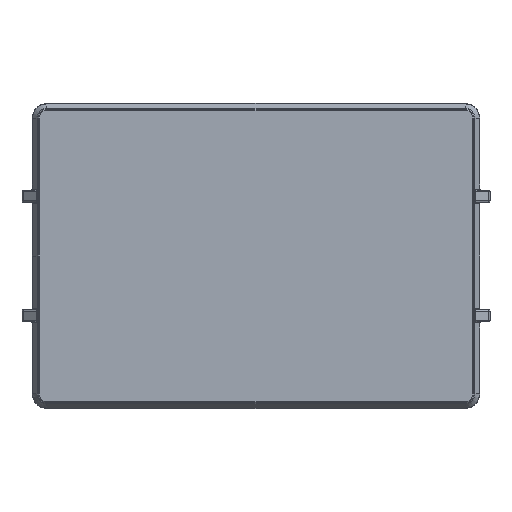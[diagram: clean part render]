
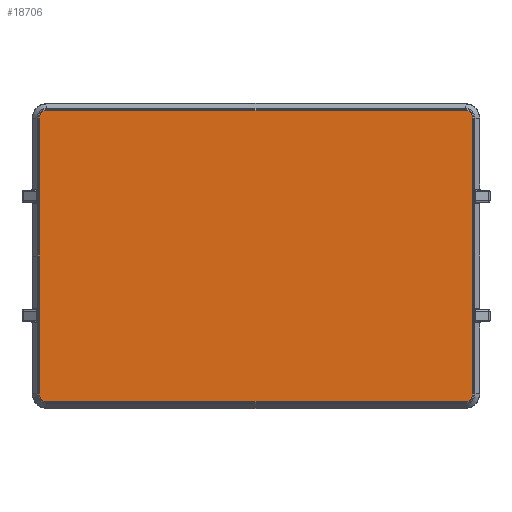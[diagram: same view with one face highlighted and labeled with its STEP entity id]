
A CAD part, front view. The second image highlights one B-rep face of the part: STEP entity #18706.
In plain terms, the highlighted planar face has unit normal (0, -1, 0).
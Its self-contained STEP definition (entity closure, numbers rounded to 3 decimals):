
#21 = VERTEX_POINT ( 'NONE', #11395 ) ;
#103 = LINE ( 'NONE', #19683, #10274 ) ;
#633 = CARTESIAN_POINT ( 'NONE',  ( -88., -39., -61.334 ) ) ;
#657 = AXIS2_PLACEMENT_3D ( 'NONE', #17870, #3749, #17539 ) ;
#1175 = FACE_OUTER_BOUND ( 'NONE', #3367, .T. ) ;
#1236 = DIRECTION ( 'NONE',  ( 0., 0., 1. ) ) ;
#1334 = CARTESIAN_POINT ( 'NONE',  ( -88., -39., 61.334 ) ) ;
#1744 = DIRECTION ( 'NONE',  ( 1., 0., 0. ) ) ;
#1837 = CARTESIAN_POINT ( 'NONE',  ( 88., -39., -61.334 ) ) ;
#2664 = LINE ( 'NONE', #9656, #7233 ) ;
#3184 = CARTESIAN_POINT ( 'NONE',  ( -91.334, -39., 0. ) ) ;
#3300 = ORIENTED_EDGE ( 'NONE', *, *, #15405, .T. ) ;
#3346 = ORIENTED_EDGE ( 'NONE', *, *, #9237, .T. ) ;
#3367 = EDGE_LOOP ( 'NONE', ( #3346, #22246, #15700, #3300, #14067, #6966, #4018, #3939, #17238 ) ) ;
#3610 = VECTOR ( 'NONE', #10825, 1000. ) ;
#3661 = DIRECTION ( 'NONE',  ( 0., -1., 0. ) ) ;
#3749 = DIRECTION ( 'NONE',  ( 0., -1., 0. ) ) ;
#3880 = DIRECTION ( 'NONE',  ( 0., 0., -1. ) ) ;
#3939 = ORIENTED_EDGE ( 'NONE', *, *, #12625, .T. ) ;
#4018 = ORIENTED_EDGE ( 'NONE', *, *, #15265, .T. ) ;
#4637 = EDGE_CURVE ( 'NONE', #15185, #21633, #8171, .T. ) ;
#4782 = AXIS2_PLACEMENT_3D ( 'NONE', #21107, #3661, #3880 ) ;
#5480 = VECTOR ( 'NONE', #18824, 1000. ) ;
#6834 = DIRECTION ( 'NONE',  ( 0., -1., 0. ) ) ;
#6888 = CARTESIAN_POINT ( 'NONE',  ( 88., -39., 61.334 ) ) ;
#6952 = CARTESIAN_POINT ( 'NONE',  ( 88., -39., 58. ) ) ;
#6966 = ORIENTED_EDGE ( 'NONE', *, *, #13667, .T. ) ;
#7030 = CARTESIAN_POINT ( 'NONE',  ( 91.334, -39., 58. ) ) ;
#7233 = VECTOR ( 'NONE', #1236, 1000. ) ;
#7443 = VERTEX_POINT ( 'NONE', #1334 ) ;
#7916 = EDGE_CURVE ( 'NONE', #10935, #16175, #18075, .T. ) ;
#8171 = LINE ( 'NONE', #20572, #10764 ) ;
#8229 = PLANE ( 'NONE',  #14205 ) ;
#8852 = CARTESIAN_POINT ( 'NONE',  ( -91.334, -39., 58. ) ) ;
#8871 = EDGE_CURVE ( 'NONE', #21, #15185, #12456, .T. ) ;
#9237 = EDGE_CURVE ( 'NONE', #16175, #21, #103, .T. ) ;
#9656 = CARTESIAN_POINT ( 'NONE',  ( 91.334, -39., -58. ) ) ;
#10111 = DIRECTION ( 'NONE',  ( 0., -1., 0. ) ) ;
#10175 = DIRECTION ( 'NONE',  ( 0., 0., 1. ) ) ;
#10214 = VERTEX_POINT ( 'NONE', #12038 ) ;
#10274 = VECTOR ( 'NONE', #12455, 1000. ) ;
#10764 = VECTOR ( 'NONE', #11734, 1000. ) ;
#10825 = DIRECTION ( 'NONE',  ( 0., 0., -1. ) ) ;
#10935 = VERTEX_POINT ( 'NONE', #8852 ) ;
#11337 = CARTESIAN_POINT ( 'NONE',  ( 88., -39., 61.334 ) ) ;
#11395 = CARTESIAN_POINT ( 'NONE',  ( -91.334, -39., -58. ) ) ;
#11734 = DIRECTION ( 'NONE',  ( 1., 0., 0. ) ) ;
#12038 = CARTESIAN_POINT ( 'NONE',  ( 91.334, -39., -58. ) ) ;
#12288 = AXIS2_PLACEMENT_3D ( 'NONE', #20219, #10111, #18615 ) ;
#12455 = DIRECTION ( 'NONE',  ( 0., 0., -1. ) ) ;
#12456 = CIRCLE ( 'NONE', #657, 3.334 ) ;
#12625 = EDGE_CURVE ( 'NONE', #7443, #10935, #22173, .T. ) ;
#12900 = CARTESIAN_POINT ( 'NONE',  ( -91.334, -39., 58. ) ) ;
#13667 = EDGE_CURVE ( 'NONE', #22601, #20998, #20391, .T. ) ;
#14067 = ORIENTED_EDGE ( 'NONE', *, *, #17050, .T. ) ;
#14165 = AXIS2_PLACEMENT_3D ( 'NONE', #6952, #6834, #1744 ) ;
#14205 = AXIS2_PLACEMENT_3D ( 'NONE', #3184, #15118, #10175 ) ;
#15118 = DIRECTION ( 'NONE',  ( 0., 1., 0. ) ) ;
#15185 = VERTEX_POINT ( 'NONE', #633 ) ;
#15265 = EDGE_CURVE ( 'NONE', #20998, #7443, #20887, .T. ) ;
#15405 = EDGE_CURVE ( 'NONE', #21633, #10214, #21269, .T. ) ;
#15700 = ORIENTED_EDGE ( 'NONE', *, *, #4637, .T. ) ;
#16175 = VERTEX_POINT ( 'NONE', #21465 ) ;
#17050 = EDGE_CURVE ( 'NONE', #10214, #22601, #2664, .T. ) ;
#17238 = ORIENTED_EDGE ( 'NONE', *, *, #7916, .T. ) ;
#17539 = DIRECTION ( 'NONE',  ( -1., 0., 0. ) ) ;
#17870 = CARTESIAN_POINT ( 'NONE',  ( -88., -39., -58. ) ) ;
#18075 = LINE ( 'NONE', #12900, #3610 ) ;
#18615 = DIRECTION ( 'NONE',  ( 0., 0., 1. ) ) ;
#18706 = ADVANCED_FACE ( 'NONE', ( #1175 ), #8229, .F. ) ;
#18824 = DIRECTION ( 'NONE',  ( -1., 0., 0. ) ) ;
#19683 = CARTESIAN_POINT ( 'NONE',  ( -91.334, -39., 0. ) ) ;
#20219 = CARTESIAN_POINT ( 'NONE',  ( -88., -39., 58. ) ) ;
#20391 = CIRCLE ( 'NONE', #14165, 3.334 ) ;
#20572 = CARTESIAN_POINT ( 'NONE',  ( -88., -39., -61.334 ) ) ;
#20887 = LINE ( 'NONE', #6888, #5480 ) ;
#20998 = VERTEX_POINT ( 'NONE', #11337 ) ;
#21107 = CARTESIAN_POINT ( 'NONE',  ( 88., -39., -58. ) ) ;
#21269 = CIRCLE ( 'NONE', #4782, 3.334 ) ;
#21465 = CARTESIAN_POINT ( 'NONE',  ( -91.334, -39., 0. ) ) ;
#21633 = VERTEX_POINT ( 'NONE', #1837 ) ;
#22173 = CIRCLE ( 'NONE', #12288, 3.334 ) ;
#22246 = ORIENTED_EDGE ( 'NONE', *, *, #8871, .T. ) ;
#22601 = VERTEX_POINT ( 'NONE', #7030 ) ;
